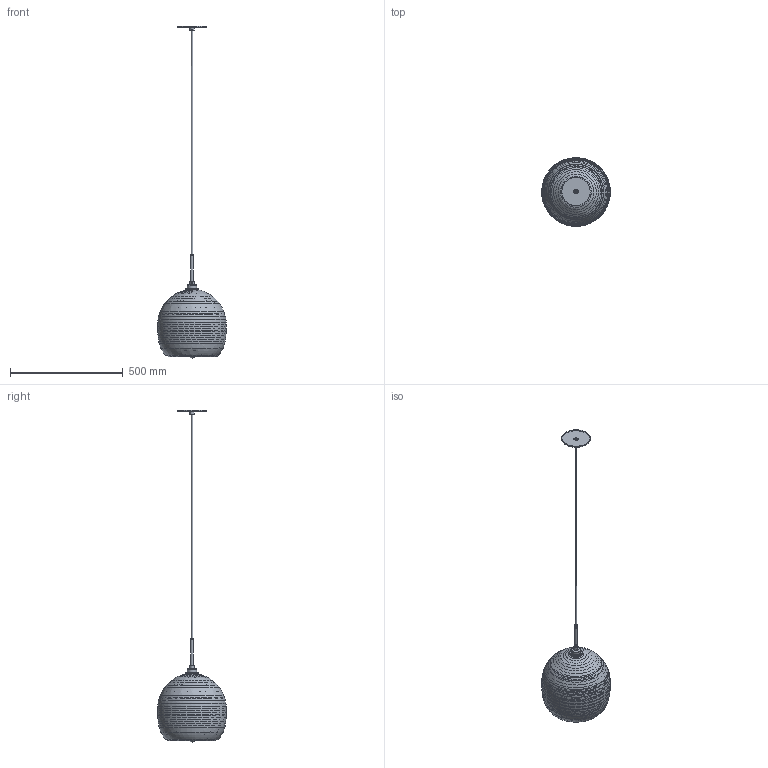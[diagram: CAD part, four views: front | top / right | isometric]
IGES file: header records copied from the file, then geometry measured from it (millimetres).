
Global section: file name: Niche - Stamen Pendant; native system: unknown; preprocessor: unknown; author: unknown; organization: unknown; date: 20220727.160452; units: inch
Bounding box: 304.92 x 304.93 x 1474.72 mm (x, y, z)
Volume: 1214792.3 mm3; surface area: 755044.6 mm2
Topology: 12 solids, 12 shells, 250 faces, 670 edges, 449 vertices
Faces by surface type: bspline 250
